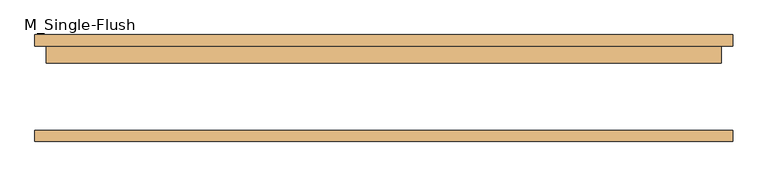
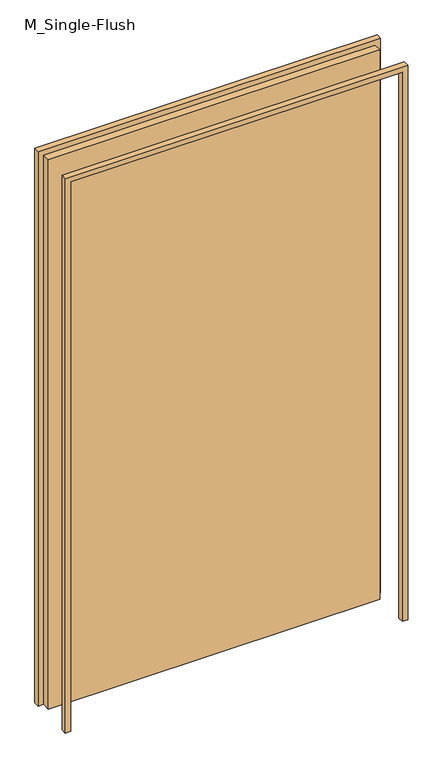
"""IFC4 building model written with IfcOpenShell, lengths in millimetres: door geometry, M_Single-Flush : 120x210 室內."""

from ifc_helpers import new_model, si_unit, frame, origin, origin_with_axes, place, context, project, spatial, polyline, outline, extrude, source, transform, mapped, element, save


def m_single_flush_79bdf320(model_context):
    return source(origin(), model_context, "Body", "SweptSolid", [
        extrude(outline(polyline([(2120.0, -620.0), (0.0, -620.0), (0.0, -600.0), (2100.0, -600.0), (2100.0, 600.0), (0.0, 600.0), (0.0, 620.0), (2120.0, 620.0), (2120.0, -620.0)])), frame((0.0, 75.0, 0.0), z_axis=(0.0, 1.0, 0.0), x_axis=(0.0, 0.0, 1.0)), (0.0, 0.0, 1.0), 20.0),
        extrude(outline(polyline([(2120.0, 620.0), (2120.0, -620.0), (0.0, -620.0), (0.0, -600.0), (2100.0, -600.0), (2100.0, 600.0), (0.0, 600.0), (0.0, 620.0), (2120.0, 620.0)])), frame((0.0, -95.0, 0.0), z_axis=(0.0, 1.0, 0.0), x_axis=(0.0, 0.0, 1.0)), (0.0, 0.0, 1.0), 20.0),
        extrude(outline(polyline([(600.0, 45.0), (-600.0, 45.0), (-600.0, 75.0), (600.0, 75.0), (600.0, 45.0)])), origin_with_axes(), (0.0, 0.0, 1.0), 2100.0),
    ])


if __name__ == "__main__":
    model = new_model("IFC4")
    model_context = context("Model", 3, world=origin())
    ifc_project = project(units=[si_unit("LENGTHUNIT", "METRE", prefix="MILLI")], contexts=[model_context])
    site = spatial("IfcSite", under=ifc_project)
    building = spatial("IfcBuilding", under=site)
    placement = place(None, origin())
    m_single_flush_shape = m_single_flush_79bdf320(model_context)
    element("IfcDoor", 1, ObjectType="M_Single-Flush : 120x210 室內", at=placement, inside=building, context=model_context, shape_type="MappedRepresentation", body=[
        mapped(m_single_flush_shape, transform((0.0, 0.0, 0.0), x_axis=(1.0, 0.0, 0.0), y_axis=(0.0, 1.0, 0.0), z_axis=(0.0, 0.0, 1.0))),
    ])
    save(model, "model.ifc")
